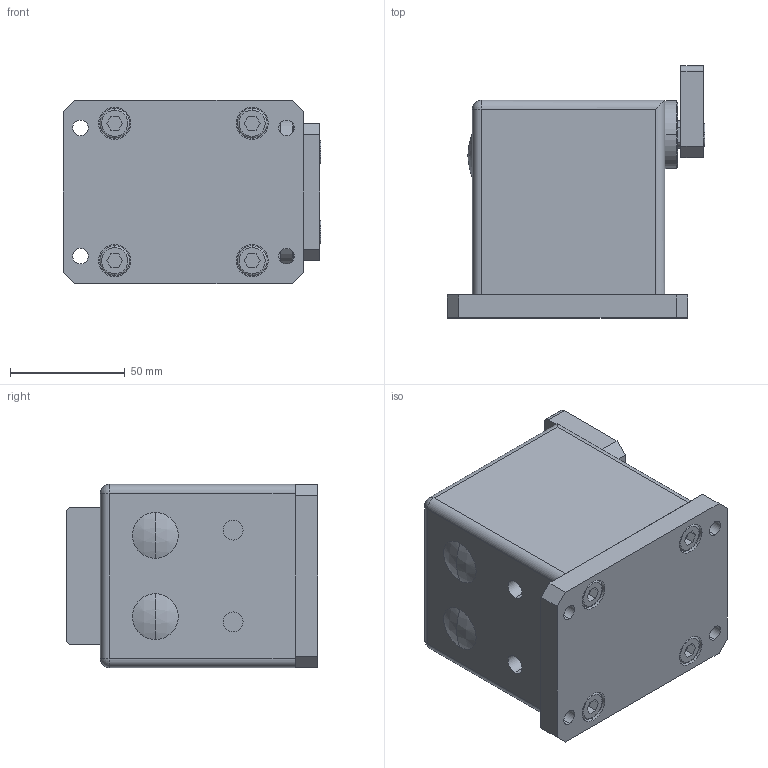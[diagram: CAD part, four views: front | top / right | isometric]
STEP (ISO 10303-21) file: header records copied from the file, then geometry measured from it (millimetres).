
FILE_DESCRIPTION (( 'STEP AP203' ), '1' );
FILE_NAME ('DBS150-DW.STEP', '2008-07-09T08:51:39', ( '' ), ( '' ), 'SwSTEP 2.0', 'SolidWorks 2007', '' );
FILE_SCHEMA (( 'CONFIG_CONTROL_DESIGN' ));
Length unit declared in the file: millimetre
Products named in the file (1): DBS150-DW
Bounding box: 112.5 x 110 x 80 mm (x, y, z)
Volume: 603520 mm3; surface area: 102415.4 mm2
Topology: 3 solids, 3 shells, 254 faces, 597 edges, 376 vertices
Faces by surface type: plane 125, cylinder 93, cone 16, torus 14, sphere 6
Entity records: 7294 total; most frequent: DIRECTION 1321, CARTESIAN_POINT 1220, ORIENTED_EDGE 1166, EDGE_CURVE 583, AXIS2_PLACEMENT_3D 485, VERTEX_POINT 376, VECTOR 351, LINE 351
